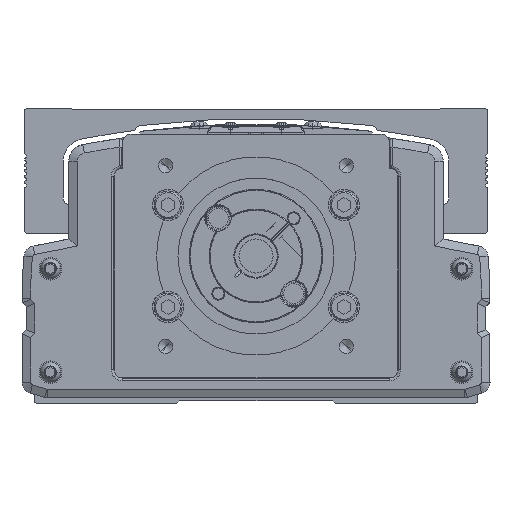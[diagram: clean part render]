
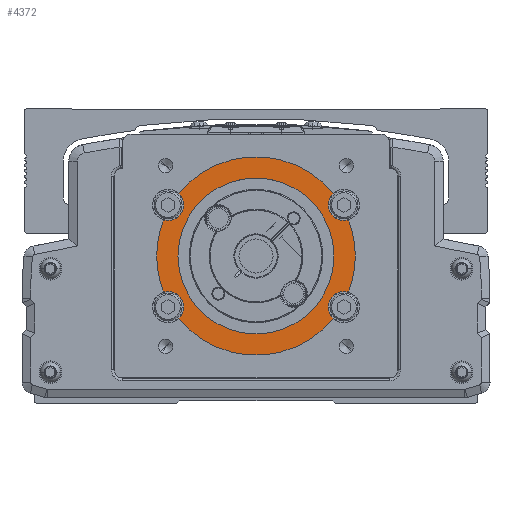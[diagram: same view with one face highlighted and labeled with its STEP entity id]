
A CAD part, front view. The second image highlights one B-rep face of the part: STEP entity #4372.
In plain terms, the highlighted planar face has unit normal (0, -1, 0).
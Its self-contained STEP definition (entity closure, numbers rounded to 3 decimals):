
#4372=ADVANCED_FACE('',(#11032,#11033),#11034,.F.);
#11032=FACE_OUTER_BOUND('',#21681,.T.);
#11033=FACE_BOUND('',#21682,.T.);
#11034=PLANE('',#21683);
#21681=EDGE_LOOP('',(#35376,#35377,#35378,#35379,#35380,#35381,#35382,#35383,#35384,#35385,#35386,#35387,#35388,#35389));
#21682=EDGE_LOOP('',(#35390,#35391));
#21683=AXIS2_PLACEMENT_3D('',#35392,#35393,#35394);
#35376=ORIENTED_EDGE('',*,*,#61363,.F.);
#35377=ORIENTED_EDGE('',*,*,#59853,.T.);
#35378=ORIENTED_EDGE('',*,*,#61364,.T.);
#35379=ORIENTED_EDGE('',*,*,#61365,.F.);
#35380=ORIENTED_EDGE('',*,*,#61366,.F.);
#35381=ORIENTED_EDGE('',*,*,#61367,.T.);
#35382=ORIENTED_EDGE('',*,*,#60350,.F.);
#35383=ORIENTED_EDGE('',*,*,#61368,.F.);
#35384=ORIENTED_EDGE('',*,*,#60053,.T.);
#35385=ORIENTED_EDGE('',*,*,#61369,.T.);
#35386=ORIENTED_EDGE('',*,*,#59880,.F.);
#35387=ORIENTED_EDGE('',*,*,#61370,.F.);
#35388=ORIENTED_EDGE('',*,*,#61371,.T.);
#35389=ORIENTED_EDGE('',*,*,#61372,.F.);
#35390=ORIENTED_EDGE('',*,*,#61373,.F.);
#35391=ORIENTED_EDGE('',*,*,#61374,.F.);
#35392=CARTESIAN_POINT('',(-600.,28.222,0.));
#35393=DIRECTION('',(0.,1.0,0.));
#35394=DIRECTION('',(-1.0,0.,0.));
#59853=EDGE_CURVE('',#71181,#71178,#71182,.T.);
#59880=EDGE_CURVE('',#71227,#71229,#71230,.T.);
#60053=EDGE_CURVE('',#71532,#71530,#71533,.T.);
#60350=EDGE_CURVE('',#72052,#72054,#72055,.T.);
#61363=EDGE_CURVE('',#71181,#73818,#73819,.T.);
#61364=EDGE_CURVE('',#71178,#73820,#73821,.T.);
#61365=EDGE_CURVE('',#73822,#73820,#73823,.T.);
#61366=EDGE_CURVE('',#73824,#73822,#73825,.T.);
#61367=EDGE_CURVE('',#73824,#72054,#73826,.T.);
#61368=EDGE_CURVE('',#71532,#72052,#73827,.T.);
#61369=EDGE_CURVE('',#71530,#71229,#73828,.T.);
#61370=EDGE_CURVE('',#73829,#71227,#73830,.T.);
#61371=EDGE_CURVE('',#73829,#73831,#73832,.T.);
#61372=EDGE_CURVE('',#73818,#73831,#73833,.T.);
#61373=EDGE_CURVE('',#73834,#73835,#73836,.T.);
#61374=EDGE_CURVE('',#73835,#73834,#73837,.T.);
#71178=VERTEX_POINT('',#87637);
#71181=VERTEX_POINT('',#87641);
#71182=CIRCLE('',#87642,35.0);
#71227=VERTEX_POINT('',#87698);
#71229=VERTEX_POINT('',#87701);
#71230=CIRCLE('',#87702,5.5);
#71530=VERTEX_POINT('',#88190);
#71532=VERTEX_POINT('',#88193);
#71533=CIRCLE('',#88194,35.0);
#72052=VERTEX_POINT('',#88937);
#72054=VERTEX_POINT('',#88940);
#72055=CIRCLE('',#88941,5.5);
#73818=VERTEX_POINT('',#91358);
#73819=CIRCLE('',#91359,5.5);
#73820=VERTEX_POINT('',#91360);
#73821=CIRCLE('',#91361,35.0);
#73822=VERTEX_POINT('',#91362);
#73823=CIRCLE('',#91363,5.5);
#73824=VERTEX_POINT('',#91364);
#73825=CIRCLE('',#91365,5.5);
#73826=CIRCLE('',#91366,35.0);
#73827=CIRCLE('',#91367,5.5);
#73828=CIRCLE('',#91368,35.0);
#73829=VERTEX_POINT('',#91369);
#73830=CIRCLE('',#91370,5.5);
#73831=VERTEX_POINT('',#91371);
#73832=CIRCLE('',#91372,35.0);
#73833=CIRCLE('',#91373,5.5);
#73834=VERTEX_POINT('',#91374);
#73835=VERTEX_POINT('',#91375);
#73836=CIRCLE('',#91376,27.5);
#73837=CIRCLE('',#91377,27.5);
#87637=CARTESIAN_POINT('',(-635.,28.222,0.));
#87641=CARTESIAN_POINT('',(-632.6,28.222,12.738));
#87642=AXIS2_PLACEMENT_3D('',#109606,#109607,#109608);
#87698=CARTESIAN_POINT('',(-574.5,28.222,18.));
#87701=CARTESIAN_POINT('',(-567.4,28.222,12.738));
#87702=AXIS2_PLACEMENT_3D('',#109648,#109649,#109650);
#88190=CARTESIAN_POINT('',(-565.,28.222,0.));
#88193=CARTESIAN_POINT('',(-567.4,28.222,-12.738));
#88194=AXIS2_PLACEMENT_3D('',#109877,#109878,#109879);
#88937=CARTESIAN_POINT('',(-574.5,28.222,-18.));
#88940=CARTESIAN_POINT('',(-572.777,28.222,-21.998));
#88941=AXIS2_PLACEMENT_3D('',#110242,#110243,#110244);
#91358=CARTESIAN_POINT('',(-625.5,28.222,18.));
#91359=AXIS2_PLACEMENT_3D('',#111814,#111815,#111816);
#91360=CARTESIAN_POINT('',(-632.6,28.222,-12.738));
#91361=AXIS2_PLACEMENT_3D('',#111817,#111818,#111819);
#91362=CARTESIAN_POINT('',(-625.5,28.222,-18.));
#91363=AXIS2_PLACEMENT_3D('',#111820,#111821,#111822);
#91364=CARTESIAN_POINT('',(-627.223,28.222,-21.998));
#91365=AXIS2_PLACEMENT_3D('',#111823,#111824,#111825);
#91366=AXIS2_PLACEMENT_3D('',#111826,#111827,#111828);
#91367=AXIS2_PLACEMENT_3D('',#111829,#111830,#111831);
#91368=AXIS2_PLACEMENT_3D('',#111832,#111833,#111834);
#91369=CARTESIAN_POINT('',(-572.777,28.222,21.998));
#91370=AXIS2_PLACEMENT_3D('',#111835,#111836,#111837);
#91371=CARTESIAN_POINT('',(-627.223,28.222,21.998));
#91372=AXIS2_PLACEMENT_3D('',#111838,#111839,#111840);
#91373=AXIS2_PLACEMENT_3D('',#111841,#111842,#111843);
#91374=CARTESIAN_POINT('',(-572.5,28.222,0.));
#91375=CARTESIAN_POINT('',(-627.5,28.222,0.));
#91376=AXIS2_PLACEMENT_3D('',#111844,#111845,#111846);
#91377=AXIS2_PLACEMENT_3D('',#111847,#111848,#111849);
#109606=CARTESIAN_POINT('',(-600.,28.222,0.));
#109607=DIRECTION('',(0.,-1.0,0.));
#109608=DIRECTION('',(-1.0,0.,0.));
#109648=CARTESIAN_POINT('',(-569.,28.222,18.));
#109649=DIRECTION('',(0.,-1.0,0.));
#109650=DIRECTION('',(1.0,0.,0.));
#109877=CARTESIAN_POINT('',(-600.,28.222,0.));
#109878=DIRECTION('',(0.,-1.0,0.));
#109879=DIRECTION('',(-1.0,0.,0.));
#110242=CARTESIAN_POINT('',(-569.,28.222,-18.));
#110243=DIRECTION('',(0.,-1.0,0.));
#110244=DIRECTION('',(1.0,0.,0.));
#111814=CARTESIAN_POINT('',(-631.,28.222,18.));
#111815=DIRECTION('',(0.,-1.0,0.));
#111816=DIRECTION('',(-1.0,0.,0.));
#111817=CARTESIAN_POINT('',(-600.,28.222,0.));
#111818=DIRECTION('',(0.,-1.0,0.));
#111819=DIRECTION('',(-1.0,0.,0.));
#111820=CARTESIAN_POINT('',(-631.,28.222,-18.));
#111821=DIRECTION('',(0.,-1.0,0.));
#111822=DIRECTION('',(-1.0,0.,0.));
#111823=CARTESIAN_POINT('',(-631.,28.222,-18.));
#111824=DIRECTION('',(0.,-1.0,0.));
#111825=DIRECTION('',(-1.0,0.,0.));
#111826=CARTESIAN_POINT('',(-600.,28.222,0.));
#111827=DIRECTION('',(0.,-1.0,0.));
#111828=DIRECTION('',(-1.0,0.,0.));
#111829=CARTESIAN_POINT('',(-569.,28.222,-18.));
#111830=DIRECTION('',(0.,-1.0,0.));
#111831=DIRECTION('',(1.0,0.,0.));
#111832=CARTESIAN_POINT('',(-600.,28.222,0.));
#111833=DIRECTION('',(0.,-1.0,0.));
#111834=DIRECTION('',(-1.0,0.,0.));
#111835=CARTESIAN_POINT('',(-569.,28.222,18.));
#111836=DIRECTION('',(0.,-1.0,0.));
#111837=DIRECTION('',(1.0,0.,0.));
#111838=CARTESIAN_POINT('',(-600.,28.222,0.));
#111839=DIRECTION('',(0.,-1.0,0.));
#111840=DIRECTION('',(-1.0,0.,0.));
#111841=CARTESIAN_POINT('',(-631.,28.222,18.));
#111842=DIRECTION('',(0.,-1.0,0.));
#111843=DIRECTION('',(-1.0,0.,0.));
#111844=CARTESIAN_POINT('',(-600.,28.222,0.));
#111845=DIRECTION('',(0.,-1.0,0.));
#111846=DIRECTION('',(-1.0,0.,0.));
#111847=CARTESIAN_POINT('',(-600.,28.222,0.));
#111848=DIRECTION('',(0.,-1.0,0.));
#111849=DIRECTION('',(-1.0,0.,0.));
